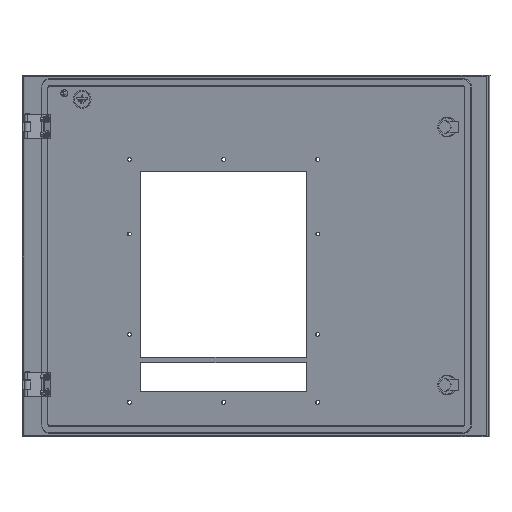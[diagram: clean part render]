
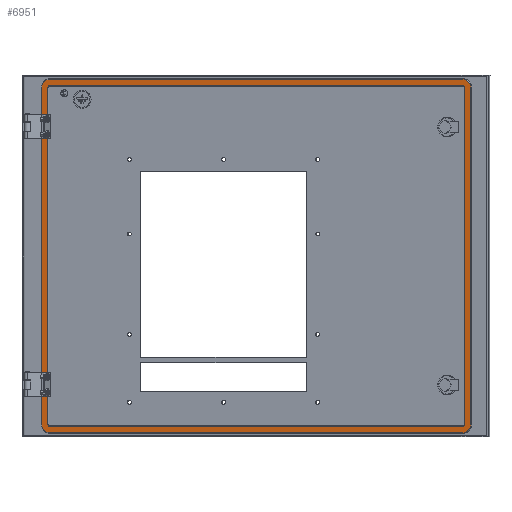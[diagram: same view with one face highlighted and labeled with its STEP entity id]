
A CAD part, left-side view. The second image highlights one B-rep face of the part: STEP entity #6951.
In plain terms, the highlighted planar face has unit normal (-0.966, 0.259, 0).
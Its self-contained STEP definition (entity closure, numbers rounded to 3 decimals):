
#44 = AXIS2_PLACEMENT_3D ( 'NONE', #8134, #16494, #6051 ) ;
#352 = EDGE_CURVE ( 'NONE', #14016, #14971, #3091, .T. ) ;
#607 = ORIENTED_EDGE ( 'NONE', *, *, #16370, .F. ) ;
#785 = CARTESIAN_POINT ( 'NONE',  ( -182.276, -654.963, 305.804 ) ) ;
#794 = ORIENTED_EDGE ( 'NONE', *, *, #20005, .F. ) ;
#808 = DIRECTION ( 'NONE',  ( -0.966, 0.259, 0. ) ) ;
#874 = CIRCLE ( 'NONE', #9299, 13.196 ) ;
#1549 = CARTESIAN_POINT ( 'NONE',  ( -182.276, -654.963, -253. ) ) ;
#1853 = VERTEX_POINT ( 'NONE', #9385 ) ;
#2069 = DIRECTION ( 'NONE',  ( -0.966, 0.259, 0. ) ) ;
#2081 = AXIS2_PLACEMENT_3D ( 'NONE', #13851, #2069, #19356 ) ;
#2196 = DIRECTION ( 'NONE',  ( -0.966, 0.259, 0. ) ) ;
#2280 = DIRECTION ( 'NONE',  ( 0.966, -0.259, 0. ) ) ;
#2476 = VERTEX_POINT ( 'NONE', #2882 ) ;
#2665 = CIRCLE ( 'NONE', #15316, 13.196 ) ;
#2685 = ORIENTED_EDGE ( 'NONE', *, *, #21515, .F. ) ;
#2780 = EDGE_CURVE ( 'NONE', #7760, #21253, #10234, .T. ) ;
#2816 = VERTEX_POINT ( 'NONE', #9895 ) ;
#2882 = CARTESIAN_POINT ( 'NONE',  ( -185.689, -667.711, -253. ) ) ;
#3035 = DIRECTION ( 'NONE',  ( 0.259, 0.966, 0. ) ) ;
#3091 = CIRCLE ( 'NONE', #3787, 2.804 ) ;
#3115 = CARTESIAN_POINT ( 'NONE',  ( 0.745, 28.769, -253. ) ) ;
#3128 = DIRECTION ( 'NONE',  ( 0.259, 0.966, 0. ) ) ;
#3158 = VERTEX_POINT ( 'NONE', #21047 ) ;
#3787 = AXIS2_PLACEMENT_3D ( 'NONE', #8312, #18122, #3035 ) ;
#4056 = DIRECTION ( 'NONE',  ( 0.966, -0.259, 0. ) ) ;
#4068 = CARTESIAN_POINT ( 'NONE',  ( 0.02, 26.06, -266.196 ) ) ;
#4168 = CARTESIAN_POINT ( 'NONE',  ( 0.02, 26.06, -255.804 ) ) ;
#4523 = LINE ( 'NONE', #9590, #17910 ) ;
#4632 = VECTOR ( 'NONE', #12223, 1000. ) ;
#4814 = ORIENTED_EDGE ( 'NONE', *, *, #8120, .F. ) ;
#4947 = DIRECTION ( 'NONE',  ( -0.259, -0.966, 0. ) ) ;
#5122 = VECTOR ( 'NONE', #8478, 1000. ) ;
#5249 = VECTOR ( 'NONE', #4947, 1000. ) ;
#5250 = EDGE_CURVE ( 'NONE', #11965, #19555, #4523, .T. ) ;
#6051 = DIRECTION ( 'NONE',  ( -0.259, -0.966, 0. ) ) ;
#6211 = VERTEX_POINT ( 'NONE', #15649 ) ;
#6372 = VERTEX_POINT ( 'NONE', #8487 ) ;
#6565 = CARTESIAN_POINT ( 'NONE',  ( -183.001, -657.672, 303. ) ) ;
#6742 = AXIS2_PLACEMENT_3D ( 'NONE', #10912, #808, #7505 ) ;
#6839 = EDGE_CURVE ( 'NONE', #9499, #2816, #11985, .T. ) ;
#6951 = ADVANCED_FACE ( 'NONE', ( #8989, #19143 ), #20779, .T. ) ;
#7118 = CARTESIAN_POINT ( 'NONE',  ( 3.432, 38.808, -253. ) ) ;
#7159 = LINE ( 'NONE', #18747, #4632 ) ;
#7505 = DIRECTION ( 'NONE',  ( 0.259, 0.966, 0. ) ) ;
#7661 = CARTESIAN_POINT ( 'NONE',  ( 0.02, 26.06, 303. ) ) ;
#7760 = VERTEX_POINT ( 'NONE', #12346 ) ;
#7903 = ORIENTED_EDGE ( 'NONE', *, *, #6839, .F. ) ;
#8032 = EDGE_CURVE ( 'NONE', #2476, #1853, #2665, .T. ) ;
#8120 = EDGE_CURVE ( 'NONE', #18232, #15240, #18504, .T. ) ;
#8134 = CARTESIAN_POINT ( 'NONE',  ( 0.02, 26.06, -253. ) ) ;
#8154 = CIRCLE ( 'NONE', #6742, 2.804 ) ;
#8246 = ORIENTED_EDGE ( 'NONE', *, *, #8032, .F. ) ;
#8312 = CARTESIAN_POINT ( 'NONE',  ( -182.276, -654.963, 303. ) ) ;
#8362 = DIRECTION ( 'NONE',  ( -0.259, -0.966, 0. ) ) ;
#8457 = CARTESIAN_POINT ( 'NONE',  ( 0.02, 26.06, -255.804 ) ) ;
#8478 = DIRECTION ( 'NONE',  ( -0.259, -0.966, 0. ) ) ;
#8487 = CARTESIAN_POINT ( 'NONE',  ( 0.02, 26.06, 305.804 ) ) ;
#8488 = EDGE_LOOP ( 'NONE', ( #19124, #20348, #8246, #2685, #13047, #4814, #19043, #9082 ) ) ;
#8750 = EDGE_CURVE ( 'NONE', #17500, #14016, #12839, .T. ) ;
#8793 = CARTESIAN_POINT ( 'NONE',  ( 0.02, 26.06, 316.196 ) ) ;
#8916 = LINE ( 'NONE', #4068, #16875 ) ;
#8989 = FACE_OUTER_BOUND ( 'NONE', #8488, .T. ) ;
#9082 = ORIENTED_EDGE ( 'NONE', *, *, #14351, .F. ) ;
#9236 = DIRECTION ( 'NONE',  ( 0.259, 0.966, 0. ) ) ;
#9299 = AXIS2_PLACEMENT_3D ( 'NONE', #10336, #4056, #20679 ) ;
#9385 = CARTESIAN_POINT ( 'NONE',  ( -182.276, -654.963, -266.196 ) ) ;
#9436 = DIRECTION ( 'NONE',  ( 0.259, 0.966, 0. ) ) ;
#9499 = VERTEX_POINT ( 'NONE', #4168 ) ;
#9590 = CARTESIAN_POINT ( 'NONE',  ( 0.745, 28.769, 25. ) ) ;
#9613 = VECTOR ( 'NONE', #9436, 1000. ) ;
#9752 = EDGE_CURVE ( 'NONE', #3158, #18232, #19623, .T. ) ;
#9861 = DIRECTION ( 'NONE',  ( 0., 0., 1. ) ) ;
#9895 = CARTESIAN_POINT ( 'NONE',  ( -182.276, -654.963, -255.804 ) ) ;
#10234 = CIRCLE ( 'NONE', #44, 13.196 ) ;
#10301 = EDGE_CURVE ( 'NONE', #6372, #11965, #17151, .T. ) ;
#10336 = CARTESIAN_POINT ( 'NONE',  ( -182.276, -654.963, 303. ) ) ;
#10408 = ORIENTED_EDGE ( 'NONE', *, *, #352, .F. ) ;
#10557 = ORIENTED_EDGE ( 'NONE', *, *, #13139, .F. ) ;
#10749 = CARTESIAN_POINT ( 'NONE',  ( 0.02, 26.06, 305.804 ) ) ;
#10912 = CARTESIAN_POINT ( 'NONE',  ( -182.276, -654.963, -253. ) ) ;
#11180 = CARTESIAN_POINT ( 'NONE',  ( -183.001, -657.672, 303. ) ) ;
#11294 = AXIS2_PLACEMENT_3D ( 'NONE', #18830, #2196, #20476 ) ;
#11516 = AXIS2_PLACEMENT_3D ( 'NONE', #7661, #2280, #12739 ) ;
#11839 = DIRECTION ( 'NONE',  ( 0., 0., -1. ) ) ;
#11965 = VERTEX_POINT ( 'NONE', #21692 ) ;
#11985 = LINE ( 'NONE', #8457, #5249 ) ;
#12099 = CARTESIAN_POINT ( 'NONE',  ( -183.001, -657.672, -253. ) ) ;
#12223 = DIRECTION ( 'NONE',  ( 0., 0., 1. ) ) ;
#12289 = EDGE_CURVE ( 'NONE', #1853, #7760, #8916, .T. ) ;
#12332 = ORIENTED_EDGE ( 'NONE', *, *, #5250, .F. ) ;
#12346 = CARTESIAN_POINT ( 'NONE',  ( 0.02, 26.06, -266.196 ) ) ;
#12420 = LINE ( 'NONE', #10749, #9613 ) ;
#12739 = DIRECTION ( 'NONE',  ( -0.259, -0.966, 0. ) ) ;
#12839 = LINE ( 'NONE', #11180, #14293 ) ;
#13047 = ORIENTED_EDGE ( 'NONE', *, *, #17465, .F. ) ;
#13139 = EDGE_CURVE ( 'NONE', #2816, #17500, #8154, .T. ) ;
#13401 = CIRCLE ( 'NONE', #11294, 2.804 ) ;
#13851 = CARTESIAN_POINT ( 'NONE',  ( -6.491, 1.737, 0. ) ) ;
#14016 = VERTEX_POINT ( 'NONE', #6565 ) ;
#14293 = VECTOR ( 'NONE', #9861, 1000. ) ;
#14351 = EDGE_CURVE ( 'NONE', #21253, #3158, #7159, .T. ) ;
#14971 = VERTEX_POINT ( 'NONE', #785 ) ;
#15240 = VERTEX_POINT ( 'NONE', #15608 ) ;
#15316 = AXIS2_PLACEMENT_3D ( 'NONE', #1549, #18405, #8362 ) ;
#15608 = CARTESIAN_POINT ( 'NONE',  ( -182.276, -654.963, 316.196 ) ) ;
#15649 = CARTESIAN_POINT ( 'NONE',  ( -185.689, -667.711, 303. ) ) ;
#16307 = DIRECTION ( 'NONE',  ( 0., 0., -1. ) ) ;
#16370 = EDGE_CURVE ( 'NONE', #14971, #6372, #12420, .T. ) ;
#16494 = DIRECTION ( 'NONE',  ( 0.966, -0.259, 0. ) ) ;
#16580 = CARTESIAN_POINT ( 'NONE',  ( -185.689, -667.711, 303. ) ) ;
#16875 = VECTOR ( 'NONE', #9236, 1000. ) ;
#16999 = CARTESIAN_POINT ( 'NONE',  ( 0.02, 26.06, 316.196 ) ) ;
#17151 = CIRCLE ( 'NONE', #19270, 2.804 ) ;
#17307 = VECTOR ( 'NONE', #11839, 1000. ) ;
#17465 = EDGE_CURVE ( 'NONE', #15240, #6211, #874, .T. ) ;
#17500 = VERTEX_POINT ( 'NONE', #12099 ) ;
#17666 = CARTESIAN_POINT ( 'NONE',  ( 0.02, 26.06, 303. ) ) ;
#17910 = VECTOR ( 'NONE', #16307, 1000. ) ;
#18001 = DIRECTION ( 'NONE',  ( -0.966, 0.259, 0. ) ) ;
#18122 = DIRECTION ( 'NONE',  ( -0.966, 0.259, 0. ) ) ;
#18232 = VERTEX_POINT ( 'NONE', #16999 ) ;
#18405 = DIRECTION ( 'NONE',  ( 0.966, -0.259, 0. ) ) ;
#18465 = LINE ( 'NONE', #16580, #17307 ) ;
#18504 = LINE ( 'NONE', #8793, #5122 ) ;
#18747 = CARTESIAN_POINT ( 'NONE',  ( 3.432, 38.808, 25. ) ) ;
#18830 = CARTESIAN_POINT ( 'NONE',  ( 0.02, 26.06, -253. ) ) ;
#19043 = ORIENTED_EDGE ( 'NONE', *, *, #9752, .F. ) ;
#19057 = ORIENTED_EDGE ( 'NONE', *, *, #8750, .F. ) ;
#19124 = ORIENTED_EDGE ( 'NONE', *, *, #2780, .F. ) ;
#19143 = FACE_BOUND ( 'NONE', #20547, .T. ) ;
#19203 = ORIENTED_EDGE ( 'NONE', *, *, #10301, .F. ) ;
#19270 = AXIS2_PLACEMENT_3D ( 'NONE', #17666, #18001, #3128 ) ;
#19356 = DIRECTION ( 'NONE',  ( 0., 0., 1. ) ) ;
#19555 = VERTEX_POINT ( 'NONE', #3115 ) ;
#19623 = CIRCLE ( 'NONE', #11516, 13.196 ) ;
#20005 = EDGE_CURVE ( 'NONE', #19555, #9499, #13401, .T. ) ;
#20348 = ORIENTED_EDGE ( 'NONE', *, *, #12289, .F. ) ;
#20476 = DIRECTION ( 'NONE',  ( 0.259, 0.966, 0. ) ) ;
#20547 = EDGE_LOOP ( 'NONE', ( #19203, #607, #10408, #19057, #10557, #7903, #794, #12332 ) ) ;
#20679 = DIRECTION ( 'NONE',  ( -0.259, -0.966, 0. ) ) ;
#20779 = PLANE ( 'NONE',  #2081 ) ;
#21047 = CARTESIAN_POINT ( 'NONE',  ( 3.432, 38.808, 303. ) ) ;
#21253 = VERTEX_POINT ( 'NONE', #7118 ) ;
#21515 = EDGE_CURVE ( 'NONE', #6211, #2476, #18465, .T. ) ;
#21692 = CARTESIAN_POINT ( 'NONE',  ( 0.745, 28.769, 303. ) ) ;
